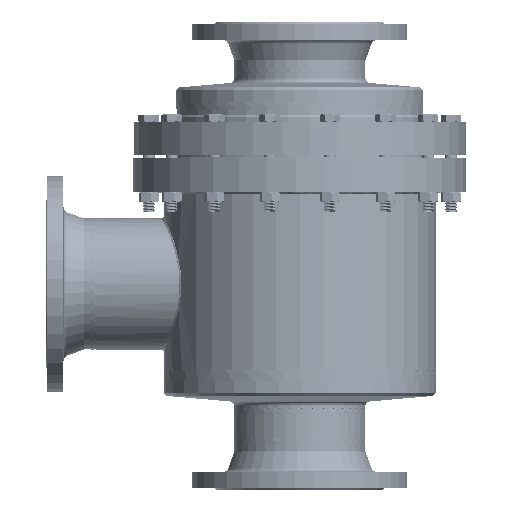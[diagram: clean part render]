
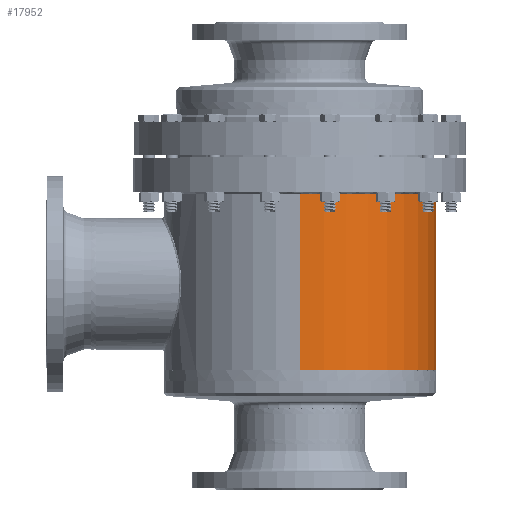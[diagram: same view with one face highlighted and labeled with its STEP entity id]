
A CAD part, top view. The second image highlights one B-rep face of the part: STEP entity #17952.
In plain terms, the highlighted cylindrical face has radius 227.5 mm (diameter 455 mm), a partial arc.
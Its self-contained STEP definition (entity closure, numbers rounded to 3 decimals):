
#33128 = LINE ( 'NONE', #33129, #33130 ) ;
#33129 = CARTESIAN_POINT ( 'NONE',  ( 0., 45.442, 227.5 ) ) ;
#33130 = VECTOR ( 'NONE', #33131, 1000. ) ;
#33131 = DIRECTION ( 'NONE',  ( 0., 1., 0. ) ) ;
#33593 = ORIENTED_EDGE ( 'NONE', *, *, #32506, .T. ) ;
#17452 = EDGE_LOOP ( 'NONE', ( #37242, #33593, #30532, #28239 ) ) ;
#17912 = CARTESIAN_POINT ( 'NONE',  ( 0., -15.94, -227.5 ) ) ;
#17952 = ADVANCED_FACE ( 'NONE', ( #19001 ), #19021, .T. ) ;
#18704 = CARTESIAN_POINT ( 'NONE',  ( 0., -15.94, 227.5 ) ) ;
#35103 = VERTEX_POINT ( 'NONE', #17912 ) ;
#19001 = FACE_OUTER_BOUND ( 'NONE', #17452, .T. ) ;
#19008 = CIRCLE ( 'NONE', #19009, 227.5 ) ;
#19009 = AXIS2_PLACEMENT_3D ( 'NONE', #19010, #19011, #19012 ) ;
#19010 = CARTESIAN_POINT ( 'NONE',  ( 0., -15.94, 0. ) ) ;
#19011 = DIRECTION ( 'NONE',  ( 0., 1., 0. ) ) ;
#19012 = DIRECTION ( 'NONE',  ( 0., 0., 1. ) ) ;
#19021 = CYLINDRICAL_SURFACE ( 'NONE', #19022, 227.5 ) ;
#19022 = AXIS2_PLACEMENT_3D ( 'NONE', #19023, #19024, #19025 ) ;
#19023 = CARTESIAN_POINT ( 'NONE',  ( 0., 45.442, 0. ) ) ;
#19024 = DIRECTION ( 'NONE',  ( 0., 1., 0. ) ) ;
#19025 = DIRECTION ( 'NONE',  ( 0., 0., 1. ) ) ;
#35737 = VERTEX_POINT ( 'NONE', #18704 ) ;
#36384 = EDGE_CURVE ( 'NONE', #35737, #35103, #19008, .T. ) ;
#36730 = CARTESIAN_POINT ( 'NONE',  ( 0., 283.573, 227.5 ) ) ;
#37242 = ORIENTED_EDGE ( 'NONE', *, *, #36384, .T. ) ;
#37430 = CIRCLE ( 'NONE', #37431, 227.5 ) ;
#37431 = AXIS2_PLACEMENT_3D ( 'NONE', #37432, #37433, #37434 ) ;
#37432 = CARTESIAN_POINT ( 'NONE',  ( 0., 283.573, 0. ) ) ;
#37433 = DIRECTION ( 'NONE',  ( 0., 1., 0. ) ) ;
#37434 = DIRECTION ( 'NONE',  ( 0., 0., 1. ) ) ;
#42131 = CARTESIAN_POINT ( 'NONE',  ( 0., 283.573, -227.5 ) ) ;
#42729 = LINE ( 'NONE', #42730, #42731 ) ;
#42730 = CARTESIAN_POINT ( 'NONE',  ( 0., 45.442, -227.5 ) ) ;
#42731 = VECTOR ( 'NONE', #42732, 1000. ) ;
#42732 = DIRECTION ( 'NONE',  ( 0., 1., 0. ) ) ;
#27470 = EDGE_CURVE ( 'NONE', #35737, #29309, #33128, .T. ) ;
#28239 = ORIENTED_EDGE ( 'NONE', *, *, #27470, .F. ) ;
#29309 = VERTEX_POINT ( 'NONE', #36730 ) ;
#29766 = EDGE_CURVE ( 'NONE', #29309, #31947, #37430, .T. ) ;
#30532 = ORIENTED_EDGE ( 'NONE', *, *, #29766, .F. ) ;
#31947 = VERTEX_POINT ( 'NONE', #42131 ) ;
#32506 = EDGE_CURVE ( 'NONE', #35103, #31947, #42729, .T. ) ;
